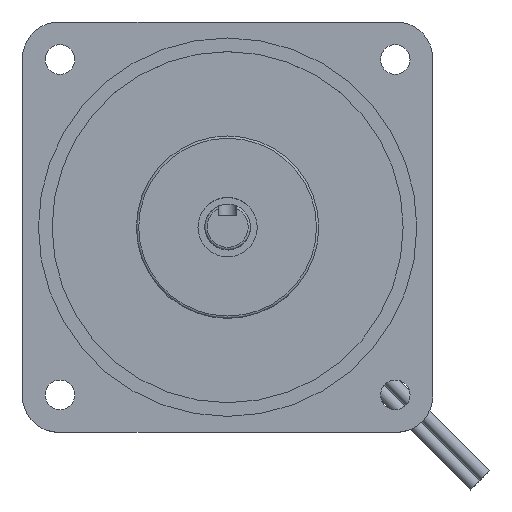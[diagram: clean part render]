
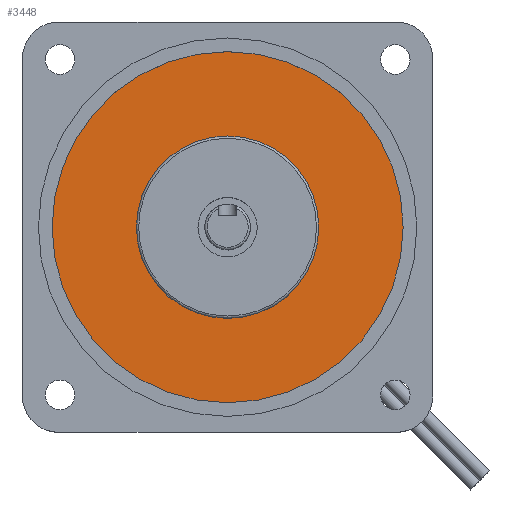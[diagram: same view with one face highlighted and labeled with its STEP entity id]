
A CAD part, top view. The second image highlights one B-rep face of the part: STEP entity #3448.
In plain terms, the highlighted planar face has unit normal (0, 0, 1).
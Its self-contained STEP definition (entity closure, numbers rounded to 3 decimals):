
#3282=CARTESIAN_POINT('',(20.0,0.,6.5));
#3283=VERTEX_POINT('',#3282);
#3284=CARTESIAN_POINT('',(0.0,0.0,6.5));
#3285=DIRECTION('',(0.0,0.0,1.0));
#3286=DIRECTION('',(-1.0,0.0,0.0));
#3287=AXIS2_PLACEMENT_3D('',#3284,#3285,#3286);
#3288=CIRCLE('',#3287,20.0);
#3289=EDGE_CURVE('',#3283,#3283,#3288,.T.);
#3414=CARTESIAN_POINT('',(38.5,0.,6.5));
#3415=VERTEX_POINT('',#3414);
#3416=CARTESIAN_POINT('',(0.0,0.0,6.5));
#3417=DIRECTION('',(0.0,0.0,1.0));
#3418=DIRECTION('',(-1.0,0.0,0.0));
#3419=AXIS2_PLACEMENT_3D('',#3416,#3417,#3418);
#3420=CIRCLE('',#3419,38.5);
#3421=EDGE_CURVE('',#3415,#3415,#3420,.T.);
#3437=CARTESIAN_POINT('',(0.0,0.0,6.5));
#3438=DIRECTION('',(0.0,0.0,-1.0));
#3439=DIRECTION('',(-1.0,0.0,0.0));
#3440=AXIS2_PLACEMENT_3D('',#3437,#3438,#3439);
#3441=PLANE('',#3440);
#3442=ORIENTED_EDGE('',*,*,#3421,.T.);
#3443=EDGE_LOOP('',(#3442));
#3444=FACE_OUTER_BOUND('',#3443,.T.);
#3445=ORIENTED_EDGE('',*,*,#3289,.F.);
#3446=EDGE_LOOP('',(#3445));
#3447=FACE_BOUND('',#3446,.T.);
#3448=ADVANCED_FACE('',(#3444,#3447),#3441,.F.);
